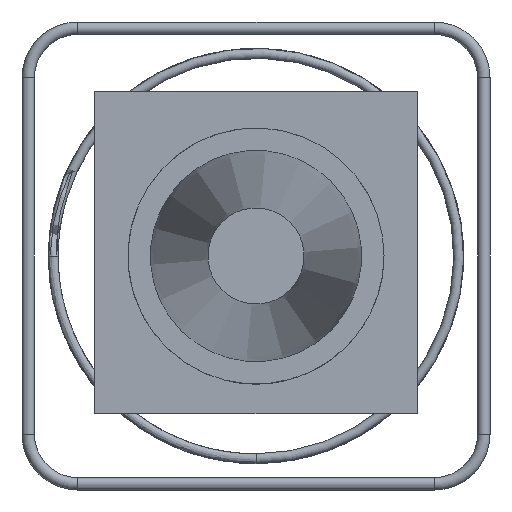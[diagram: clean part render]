
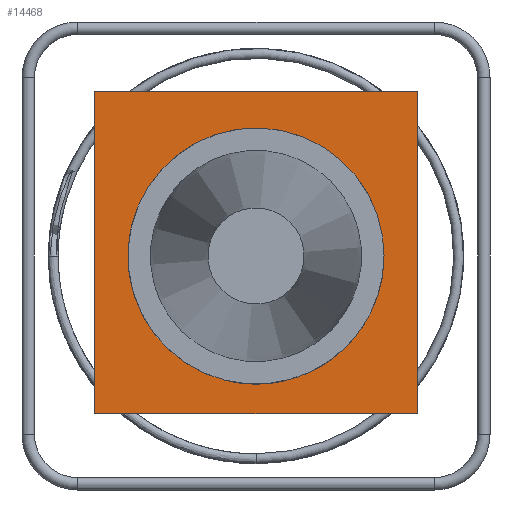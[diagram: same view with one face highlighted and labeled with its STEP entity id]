
A CAD part, left-side view. The second image highlights one B-rep face of the part: STEP entity #14468.
In plain terms, the highlighted planar face has unit normal (-1, 0, 0).
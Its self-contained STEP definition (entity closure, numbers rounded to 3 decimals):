
#1471=PLANE('',#15210);
#2390=LINE('',#40637,#3319);
#2394=LINE('',#40644,#3323);
#2397=LINE('',#40649,#3326);
#2400=LINE('',#40653,#3329);
#3319=VECTOR('',#17579,520.);
#3323=VECTOR('',#17585,520.);
#3326=VECTOR('',#17590,520.);
#3329=VECTOR('',#17595,520.);
#3570=FACE_BOUND('',#5346,.T.);
#4399=FACE_OUTER_BOUND('',#5345,.T.);
#5345=EDGE_LOOP('',(#13326,#13327,#13328,#13329));
#5346=EDGE_LOOP('',(#13330));
#5732=CIRCLE('',#15137,206.5);
#7137=VERTEX_POINT('',#34383);
#7168=VERTEX_POINT('',#40635);
#7169=VERTEX_POINT('',#40636);
#7171=VERTEX_POINT('',#40643);
#7172=VERTEX_POINT('',#40648);
#9200=EDGE_CURVE('',#7137,#7137,#5732,.T.);
#9233=EDGE_CURVE('',#7168,#7169,#2390,.T.);
#9237=EDGE_CURVE('',#7169,#7171,#2394,.T.);
#9240=EDGE_CURVE('',#7171,#7172,#2397,.T.);
#9243=EDGE_CURVE('',#7172,#7168,#2400,.T.);
#13326=ORIENTED_EDGE('',*,*,#9243,.T.);
#13327=ORIENTED_EDGE('',*,*,#9233,.T.);
#13328=ORIENTED_EDGE('',*,*,#9237,.T.);
#13329=ORIENTED_EDGE('',*,*,#9240,.T.);
#13330=ORIENTED_EDGE('',*,*,#9200,.T.);
#14468=ADVANCED_FACE('',(#4399,#3570),#1471,.F.);
#15137=AXIS2_PLACEMENT_3D('',#34384,#17433,#17434);
#15210=AXIS2_PLACEMENT_3D('',#40655,#17597,#17598);
#17433=DIRECTION('center_axis',(1.,0.,0.));
#17434=DIRECTION('ref_axis',(0.,-0.988,0.157));
#17579=DIRECTION('',(0.,0.,-1.));
#17585=DIRECTION('',(0.,-1.,0.));
#17590=DIRECTION('',(0.,0.,1.));
#17595=DIRECTION('',(0.,1.,0.));
#17597=DIRECTION('center_axis',(1.,0.,0.));
#17598=DIRECTION('ref_axis',(0.,0.,1.));
#34383=CARTESIAN_POINT('',(-112.151,-203.954,32.327));
#34384=CARTESIAN_POINT('Origin',(-112.151,0.,
0.));
#40635=CARTESIAN_POINT('',(-112.151,260.,265.253));
#40636=CARTESIAN_POINT('',(-112.151,260.,-254.747));
#40637=CARTESIAN_POINT('',(-112.151,260.,265.253));
#40643=CARTESIAN_POINT('',(-112.151,-260.,-254.747));
#40644=CARTESIAN_POINT('',(-112.151,260.,-254.747));
#40648=CARTESIAN_POINT('',(-112.151,-260.,265.253));
#40649=CARTESIAN_POINT('',(-112.151,-260.,-254.747));
#40653=CARTESIAN_POINT('',(-112.151,-260.,265.253));
#40655=CARTESIAN_POINT('Origin',(-112.151,0.,
5.253));
